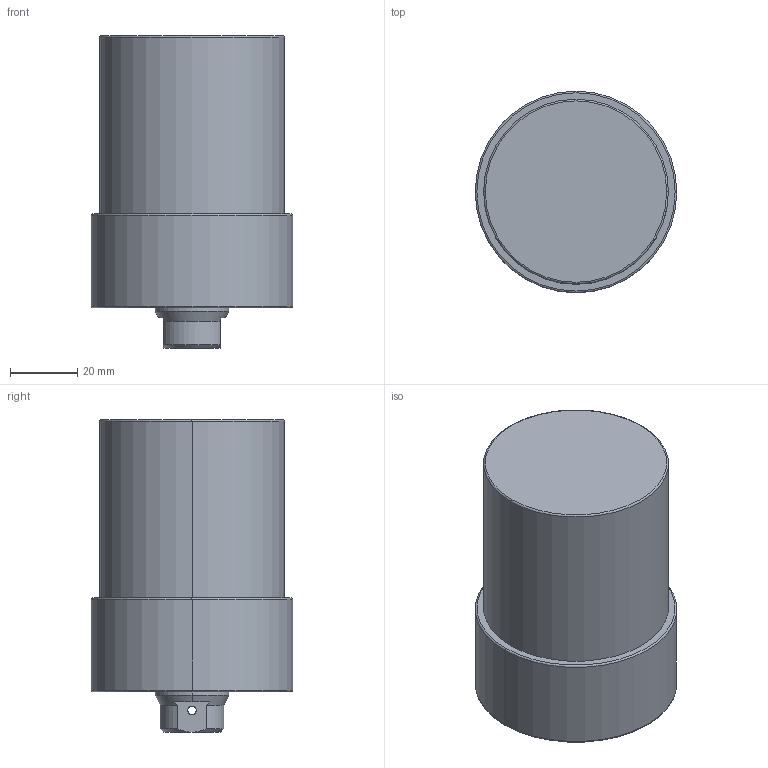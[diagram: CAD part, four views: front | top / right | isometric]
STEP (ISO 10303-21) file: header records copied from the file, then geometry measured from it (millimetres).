
FILE_DESCRIPTION (( 'STEP AP203' ), '1' );
FILE_NAME ('CLLU055-CB-040.STEP', '2017-05-12T11:21:53', ( '' ), ( '' ), 'SwSTEP 2.0', 'SolidWorks 2015', '' );
FILE_SCHEMA (( 'CONFIG_CONTROL_DESIGN' ));
Length unit declared in the file: millimetre
Products named in the file (1): CLLU055-CB-040
Bounding box: 60 x 60 x 93 mm (x, y, z)
Volume: 205377.8 mm3; surface area: 22528.9 mm2
Topology: 1 solids, 1 shells, 66 faces, 152 edges, 85 vertices
Faces by surface type: cylinder 26, cone 24, plane 10, torus 6
Entity records: 1971 total; most frequent: CARTESIAN_POINT 414, DIRECTION 340, ORIENTED_EDGE 284, AXIS2_PLACEMENT_3D 143, EDGE_CURVE 142, VERTEX_POINT 85, EDGE_LOOP 77, CIRCLE 76
